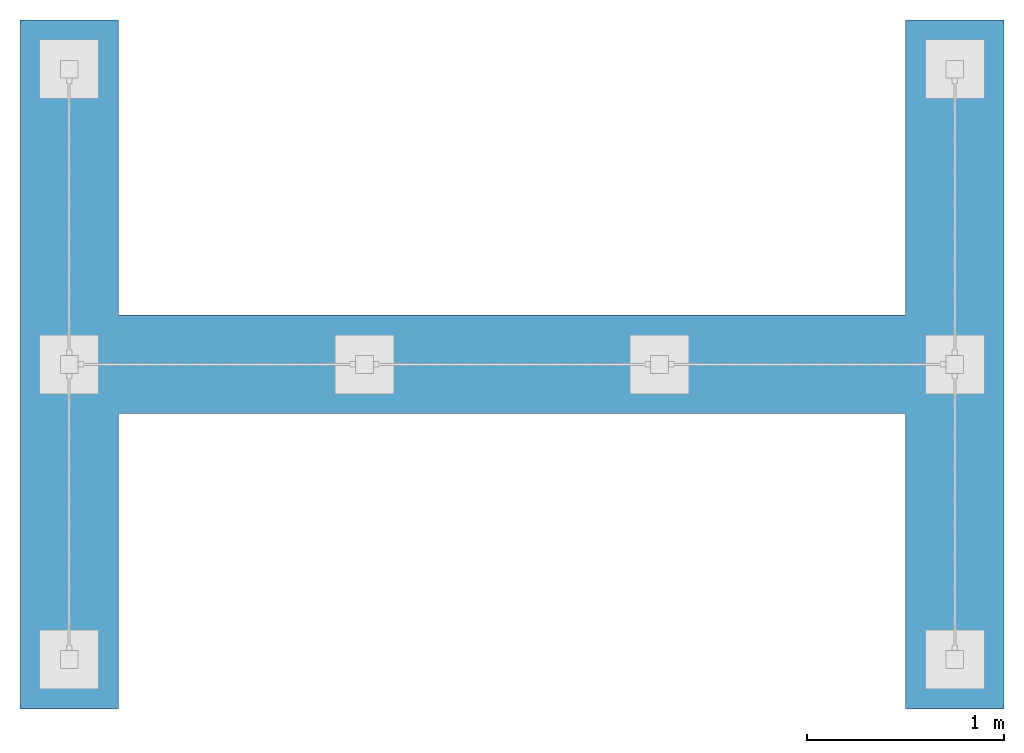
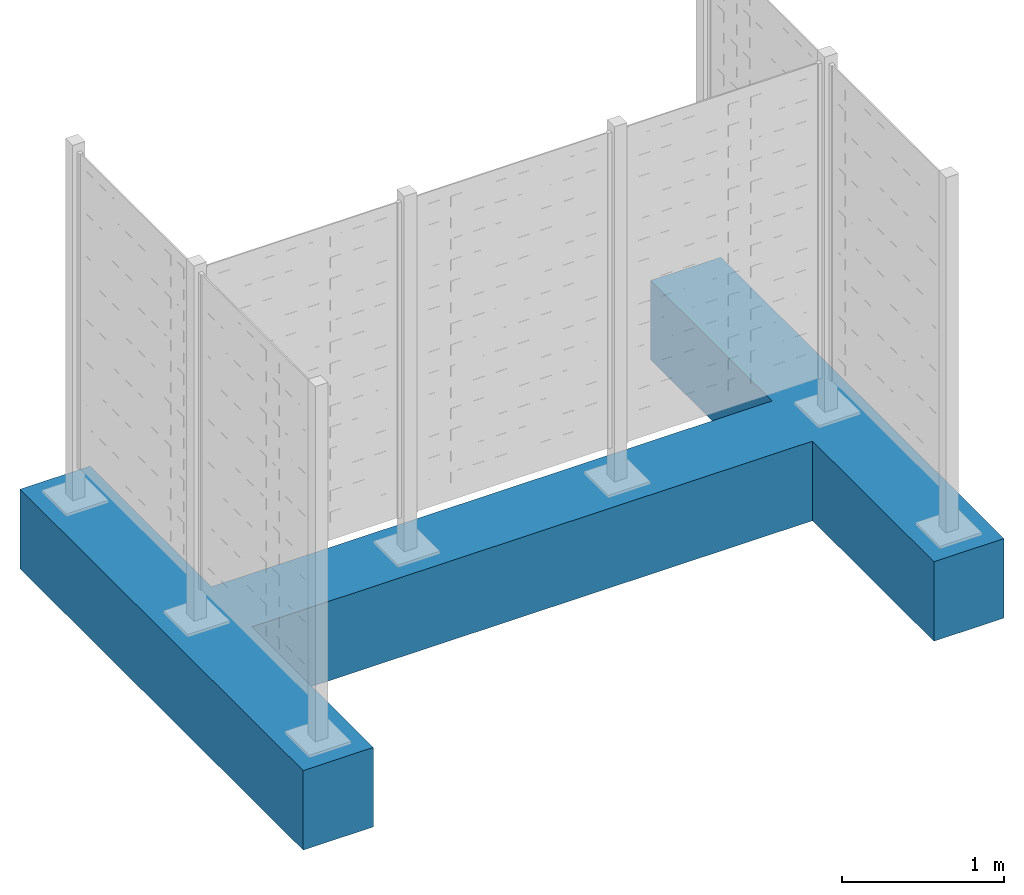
# One storey, incomplete: 1 slab.
"""IFC4 building model written with IfcOpenShell, lengths in metres."""

from ifc_helpers import new_model, entity, si_unit, converted_unit, direction, frame, frame_2d, origin, place, context, subcontext, project, spatial, i_section, extrude, material, type_object, element, save


model = new_model("IFC4")

# Units and contexts
model_context = context("Model", 3, precision=1e-05, world=origin(), true_north=direction((6.123031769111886e-17, 1.0)))
body_context = subcontext(model_context, "Body", "Model", "MODEL_VIEW")
ifc_project = project(units=[si_unit("LENGTHUNIT", "METRE"), converted_unit("PLANEANGLEUNIT", "DEGREE", entity("IfcPlaneAngleMeasure", 0.017453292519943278), si_unit("PLANEANGLEUNIT", "RADIAN"), dimensions=[0, 0, 0, 0, 0, 0, 0]), si_unit("AREAUNIT", "SQUARE_METRE")], contexts=[model_context])

# Site, building, storey
site_placement = place(None, origin())
site = spatial("IfcSite", under=ifc_project, at=site_placement, Name="Default", CompositionType="ELEMENT")
building_placement = place(site_placement, origin())
building = spatial("IfcBuilding", under=site, at=building_placement, CompositionType="ELEMENT")
storey_placement = place(building_placement, origin())
storey = spatial("IfcBuildingStorey", under=building, at=storey_placement, Name="DB_Bezugshoehe_max_Bahnsteigkante", CompositionType="ELEMENT", Elevation=0.0)

# Slab
ifc_material = material(Name="DB_Ortbeton", Category="DB_Beton")
slab_type = type_object("IfcSlabType", Name="DB_Windschutz_3-feldrig_H_Fundament:DB_Windschutz_3-feldrig_H_Fundament", PredefinedType="BASESLAB", material=ifc_material)
slab_placement = place(storey_placement, origin())
element("IfcSlab", 1, at=slab_placement, inside=storey, type_object=slab_type, Name="DB_Windschutz_3-feldrig_H_Fundament:DB_Windschutz_3-feldrig_H_Fundament", ObjectType="DB_Windschutz_3-feldrig_H_Fundament:DB_Windschutz_3-feldrig_H_Fundament", PredefinedType="BASESLAB", context=body_context, shape_type="SweptSolid", body=[
    extrude(i_section(OverallWidth=3.499999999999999, OverallDepth=4.999999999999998, WebThickness=0.5000000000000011, FlangeThickness=0.4999999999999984, at=frame_2d((-1.5543122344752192e-15, 3.649858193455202e-15), x_axis=(0.0, 1.0))), frame((2.2500000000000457, 1.5000000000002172, 0.0), z_axis=(0.0, 0.0, -1.0), x_axis=(-1.0, 0.0, 0.0)), (0.0, 0.0, -1.0), 0.5999999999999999),
])

save(model, "model.ifc")
